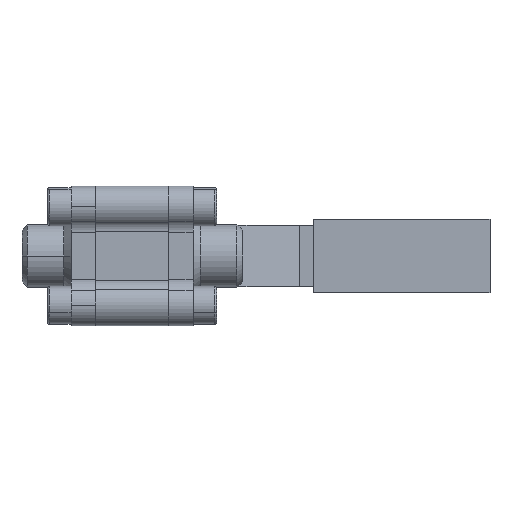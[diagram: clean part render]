
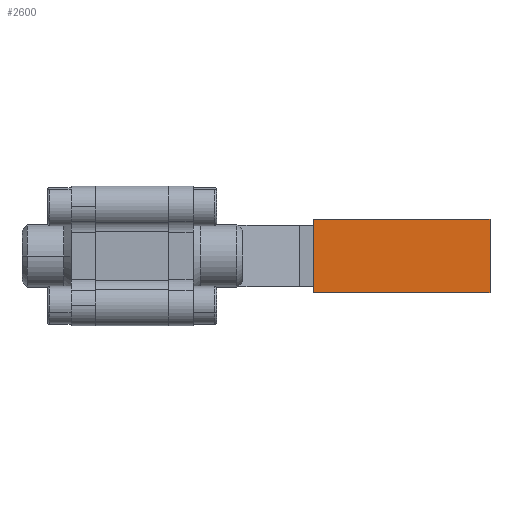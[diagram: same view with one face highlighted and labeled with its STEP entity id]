
A CAD part, front view. The second image highlights one B-rep face of the part: STEP entity #2600.
In plain terms, the highlighted planar face has unit normal (0, -1, 0).
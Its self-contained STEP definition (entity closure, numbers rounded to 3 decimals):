
#859 = LINE ( 'NONE', #2060, #904 ) ;
#888 = LINE ( 'NONE', #2056, #898 ) ;
#889 = LINE ( 'NONE', #2052, #894 ) ;
#894 = VECTOR ( 'NONE', #2057, 1000. ) ;
#898 = VECTOR ( 'NONE', #2061, 1000. ) ;
#904 = VECTOR ( 'NONE', #2068, 1000. ) ;
#907 = LINE ( 'NONE', #2064, #911 ) ;
#911 = VECTOR ( 'NONE', #2077, 1000. ) ;
#2052 = CARTESIAN_POINT ( 'NONE',  ( 61.958, 14.3, 12.5 ) ) ;
#2056 = CARTESIAN_POINT ( 'NONE',  ( 61.958, 14.3, 12.5 ) ) ;
#2057 = DIRECTION ( 'NONE',  ( 1., 0., 0. ) ) ;
#2060 = CARTESIAN_POINT ( 'NONE',  ( 61.958, 14.3, -12.5 ) ) ;
#2061 = DIRECTION ( 'NONE',  ( 0., 0., 1. ) ) ;
#2064 = CARTESIAN_POINT ( 'NONE',  ( 121.958, 14.3, 12.5 ) ) ;
#2068 = DIRECTION ( 'NONE',  ( -1., 0., 0. ) ) ;
#2077 = DIRECTION ( 'NONE',  ( 0., 0., -1. ) ) ;
#2600 = ADVANCED_FACE ( 'NONE', ( #5900 ), #3444, .T. ) ;
#3436 = CARTESIAN_POINT ( 'NONE',  ( 121.958, 14.3, -12.5 ) ) ;
#3444 = PLANE ( 'NONE',  #4587 ) ;
#3456 = DIRECTION ( 'NONE',  ( 0., -1., 0. ) ) ;
#3457 = DIRECTION ( 'NONE',  ( 1., 0., 0. ) ) ;
#4366 = EDGE_CURVE ( 'NONE', #6817, #6814, #889, .T. ) ;
#4368 = EDGE_CURVE ( 'NONE', #6819, #6817, #888, .T. ) ;
#4371 = EDGE_CURVE ( 'NONE', #6821, #6819, #859, .T. ) ;
#4375 = EDGE_CURVE ( 'NONE', #6814, #6821, #907, .T. ) ;
#4587 = AXIS2_PLACEMENT_3D ( 'NONE', #3436, #3456, #3457 ) ;
#5038 = ORIENTED_EDGE ( 'NONE', *, *, #4375, .F. ) ;
#5039 = ORIENTED_EDGE ( 'NONE', *, *, #4366, .F. ) ;
#5040 = ORIENTED_EDGE ( 'NONE', *, *, #4368, .F. ) ;
#5041 = ORIENTED_EDGE ( 'NONE', *, *, #4371, .F. ) ;
#5432 = EDGE_LOOP ( 'NONE', ( #5038, #5039, #5040, #5041 ) ) ;
#5900 = FACE_OUTER_BOUND ( 'NONE', #5432, .T. ) ;
#6814 = VERTEX_POINT ( 'NONE', #7089 ) ;
#6817 = VERTEX_POINT ( 'NONE', #7097 ) ;
#6819 = VERTEX_POINT ( 'NONE', #7099 ) ;
#6821 = VERTEX_POINT ( 'NONE', #7101 ) ;
#7089 = CARTESIAN_POINT ( 'NONE',  ( 121.958, 14.3, 12.5 ) ) ;
#7097 = CARTESIAN_POINT ( 'NONE',  ( 61.958, 14.3, 12.5 ) ) ;
#7099 = CARTESIAN_POINT ( 'NONE',  ( 61.958, 14.3, -12.5 ) ) ;
#7101 = CARTESIAN_POINT ( 'NONE',  ( 121.958, 14.3, -12.5 ) ) ;
